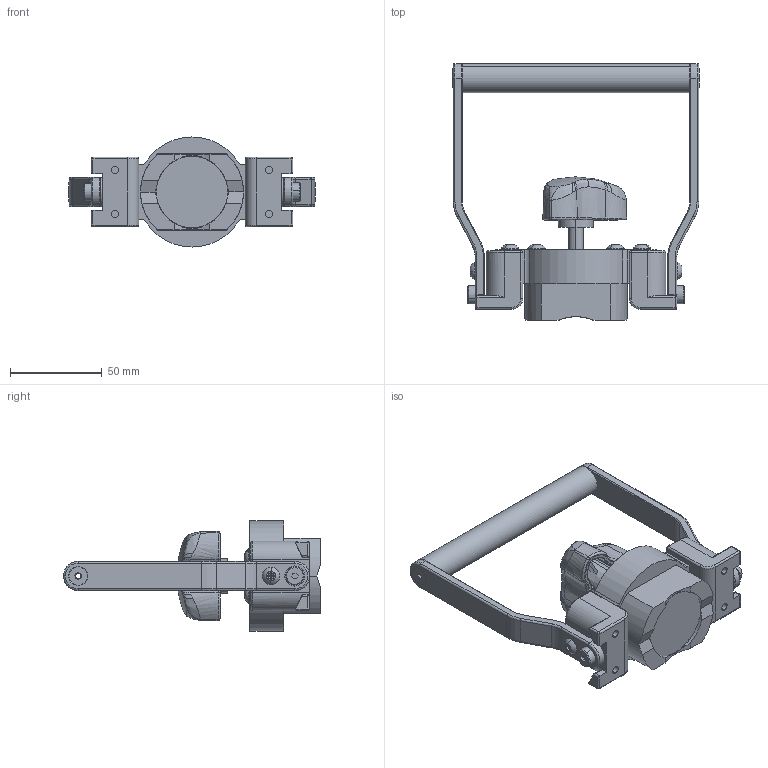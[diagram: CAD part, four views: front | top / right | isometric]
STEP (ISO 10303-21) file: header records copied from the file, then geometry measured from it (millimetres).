
FILE_DESCRIPTION (( 'STEP AP203' ), '1' );
FILE_NAME ('8000359_p.STEP', '2013-07-02T22:09:01', ( '' ), ( '' ), 'SwSTEP 2.0', 'SolidWorks 2010', '' );
FILE_SCHEMA (( 'CONFIG_CONTROL_DESIGN' ));
Length unit declared in the file: millimetre
Products named in the file (1): 8000359_p
Bounding box: 134.3 x 140.05 x 60 mm (x, y, z)
Surface area: 54646.1 mm2 (no closed solid volume)
Topology: 0 solids, 24 shells, 710 faces, 2265 edges, 1522 vertices
Faces by surface type: plane 255, bspline 173, cylinder 133, cone 99, torus 36, sphere 14
Entity records: 40446 total; most frequent: CARTESIAN_POINT 22514, ORIENTED_EDGE 3762, DIRECTION 3105, EDGE_CURVE 2257, VERTEX_POINT 1522, AXIS2_PLACEMENT_3D 1068, LINE 969, VECTOR 969
